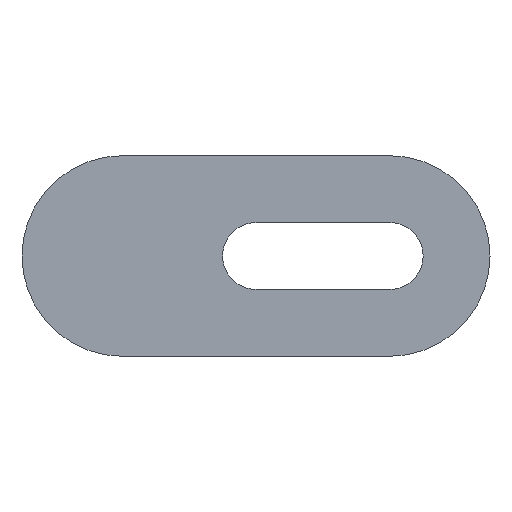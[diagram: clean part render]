
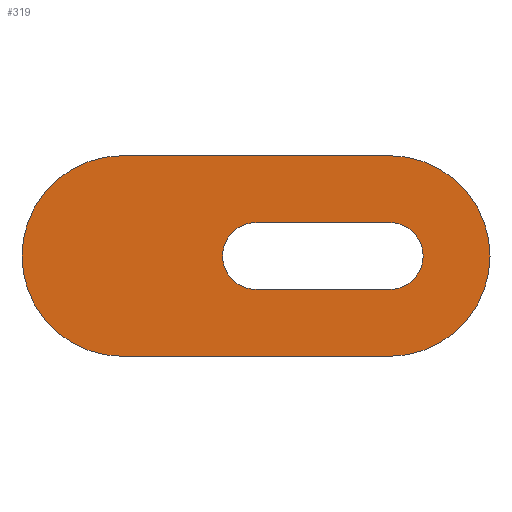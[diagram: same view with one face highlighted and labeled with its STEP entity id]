
A CAD part, front view. The second image highlights one B-rep face of the part: STEP entity #319.
In plain terms, the highlighted planar face has unit normal (0, -1, 0).
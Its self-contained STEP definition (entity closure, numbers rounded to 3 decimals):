
#24=FACE_BOUND('',#54,.T.);
#33=FACE_OUTER_BOUND('',#53,.T.);
#53=EDGE_LOOP('',(#239,#240,#241,#242));
#54=EDGE_LOOP('',(#243,#244,#245,#246));
#76=LINE('',#514,#102);
#79=LINE('',#522,#105);
#81=LINE('',#529,#107);
#82=LINE('',#533,#108);
#102=VECTOR('',#409,10.);
#105=VECTOR('',#418,10.);
#107=VECTOR('',#426,10.);
#108=VECTOR('',#429,10.);
#127=CIRCLE('',#360,30.);
#128=CIRCLE('',#363,30.);
#129=CIRCLE('',#365,10.);
#130=CIRCLE('',#366,10.);
#149=VERTEX_POINT('',#511);
#150=VERTEX_POINT('',#513);
#151=VERTEX_POINT('',#517);
#152=VERTEX_POINT('',#521);
#153=VERTEX_POINT('',#527);
#154=VERTEX_POINT('',#528);
#155=VERTEX_POINT('',#530);
#156=VERTEX_POINT('',#532);
#180=EDGE_CURVE('',#150,#149,#76,.T.);
#182=EDGE_CURVE('',#151,#150,#127,.T.);
#184=EDGE_CURVE('',#152,#151,#79,.T.);
#186=EDGE_CURVE('',#149,#152,#128,.T.);
#187=EDGE_CURVE('',#153,#154,#81,.T.);
#188=EDGE_CURVE('',#154,#155,#129,.T.);
#189=EDGE_CURVE('',#155,#156,#82,.T.);
#190=EDGE_CURVE('',#156,#153,#130,.T.);
#239=ORIENTED_EDGE('',*,*,#186,.T.);
#240=ORIENTED_EDGE('',*,*,#184,.T.);
#241=ORIENTED_EDGE('',*,*,#182,.T.);
#242=ORIENTED_EDGE('',*,*,#180,.T.);
#243=ORIENTED_EDGE('',*,*,#187,.T.);
#244=ORIENTED_EDGE('',*,*,#188,.T.);
#245=ORIENTED_EDGE('',*,*,#189,.T.);
#246=ORIENTED_EDGE('',*,*,#190,.T.);
#306=PLANE('',#364);
#319=ADVANCED_FACE('',(#33,#24),#306,.T.);
#360=AXIS2_PLACEMENT_3D('',#518,#413,#414);
#363=AXIS2_PLACEMENT_3D('',#525,#422,#423);
#364=AXIS2_PLACEMENT_3D('',#526,#424,#425);
#365=AXIS2_PLACEMENT_3D('',#531,#427,#428);
#366=AXIS2_PLACEMENT_3D('',#534,#430,#431);
#409=DIRECTION('',(-1.,0.,0.));
#413=DIRECTION('center_axis',(0.,-1.,0.));
#414=DIRECTION('ref_axis',(0.,0.,-1.));
#418=DIRECTION('',(1.,0.,0.));
#422=DIRECTION('center_axis',(0.,-1.,0.));
#423=DIRECTION('ref_axis',(0.,0.,1.));
#424=DIRECTION('center_axis',(0.,-1.,0.));
#425=DIRECTION('ref_axis',(0.,0.,-1.));
#426=DIRECTION('',(-1.,0.,0.));
#427=DIRECTION('center_axis',(0.,1.,0.));
#428=DIRECTION('ref_axis',(0.,0.,-1.));
#429=DIRECTION('',(1.,0.,0.));
#430=DIRECTION('center_axis',(0.,1.,0.));
#431=DIRECTION('ref_axis',(0.,0.,1.));
#511=CARTESIAN_POINT('',(-40.,-10.,30.));
#513=CARTESIAN_POINT('',(40.,-10.,30.));
#514=CARTESIAN_POINT('',(40.,-10.,30.));
#517=CARTESIAN_POINT('',(40.,-10.,-30.));
#518=CARTESIAN_POINT('Origin',(40.,-10.,0.));
#521=CARTESIAN_POINT('',(-40.,-10.,-30.));
#522=CARTESIAN_POINT('',(-40.,-10.,-30.));
#525=CARTESIAN_POINT('Origin',(-40.,-10.,0.));
#526=CARTESIAN_POINT('Origin',(0.,-10.,0.));
#527=CARTESIAN_POINT('',(40.,-10.,-10.));
#528=CARTESIAN_POINT('',(0.,-10.,-10.));
#529=CARTESIAN_POINT('',(40.,-10.,-10.));
#530=CARTESIAN_POINT('',(0.,-10.,10.));
#531=CARTESIAN_POINT('Origin',(0.,-10.,0.));
#532=CARTESIAN_POINT('',(40.,-10.,10.));
#533=CARTESIAN_POINT('',(0.,-10.,10.));
#534=CARTESIAN_POINT('Origin',(40.,-10.,0.));
